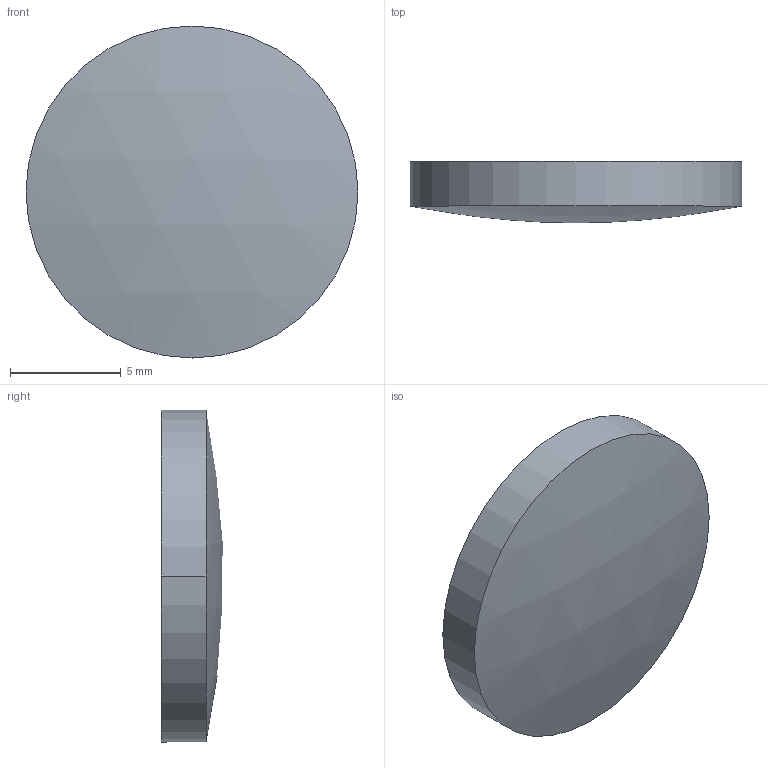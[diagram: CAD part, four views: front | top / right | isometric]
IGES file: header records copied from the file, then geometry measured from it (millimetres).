
Global section: file name: No Iges File Name specified; native system: AutoDesk Inventor R12.0; preprocessor: AutoDesk Inventor Iges Exporter R12.0; author: No Author specified; organization: No Organization specified; date: 20090512.135217; units: millimetre
Bounding box: 15 x 2.77 x 15 mm (x, y, z)
Volume: 425.9 mm3; surface area: 450.4 mm2
Topology: 1 solids, 1 shells, 4 faces, 6 edges, 4 vertices
Faces by surface type: cylinder 2, sphere 1, plane 1
